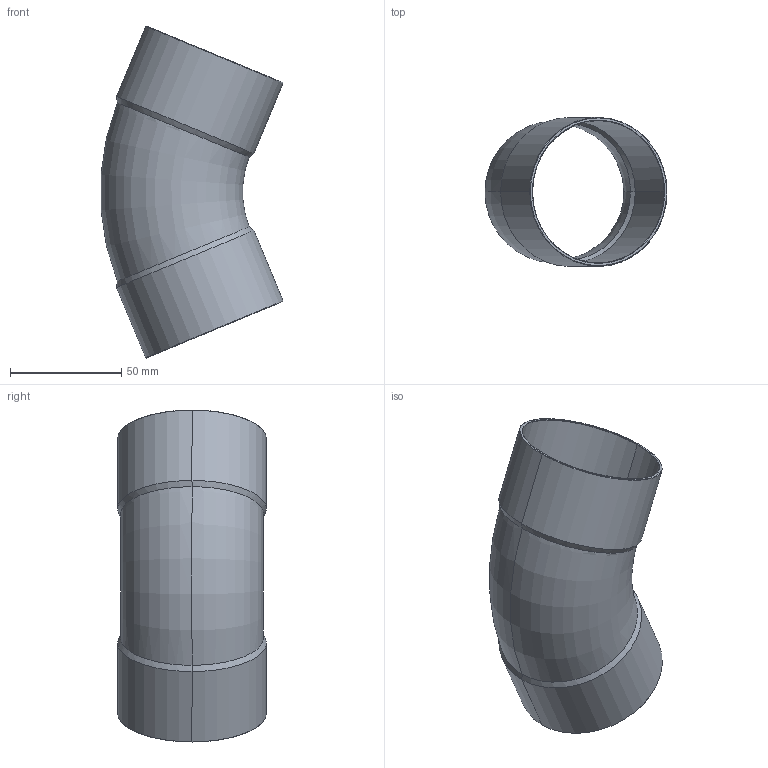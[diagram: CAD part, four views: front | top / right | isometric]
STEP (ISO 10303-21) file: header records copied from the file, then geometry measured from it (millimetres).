
FILE_DESCRIPTION((''),'2;1');
FILE_NAME('P:\Bouwmaten\z-maattekeningen 3D\5000\5040\1504164.stp','2005-10-12T15:40:24',('Kris'),(''),'Autodesk Inventor 8','Autodesk Inventor 8','');
FILE_SCHEMA(('AUTOMOTIVE_DESIGN { 1 0 10303 214 1 1 1 1 }'));
Length unit declared in the file: millimetre
Products named in the file (1): 1504164
Bounding box: 81.78 x 66.8 x 149.21 mm (x, y, z)
Volume: 37049.3 mm3; surface area: 53429.5 mm2
Topology: 1 solids, 1 shells, 30 faces, 60 edges, 32 vertices
Faces by surface type: cone 12, bspline 9, torus 4, cylinder 4, plane 1
Entity records: 1027 total; most frequent: CARTESIAN_POINT 414, DIRECTION 124, ORIENTED_EDGE 120, EDGE_CURVE 60, AXIS2_PLACEMENT_3D 50, VERTEX_POINT 32, EDGE_LOOP 32, FACE_OUTER_BOUND 30
